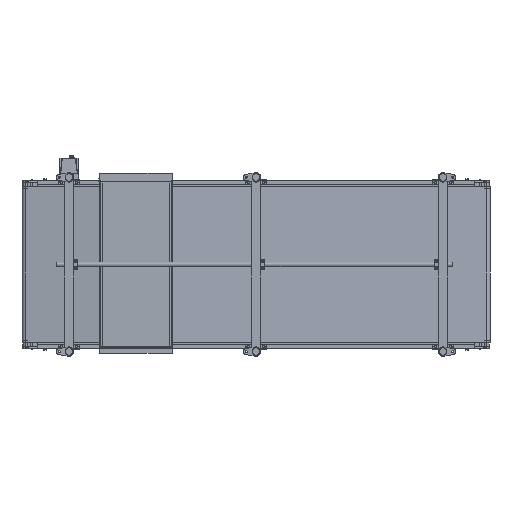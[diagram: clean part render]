
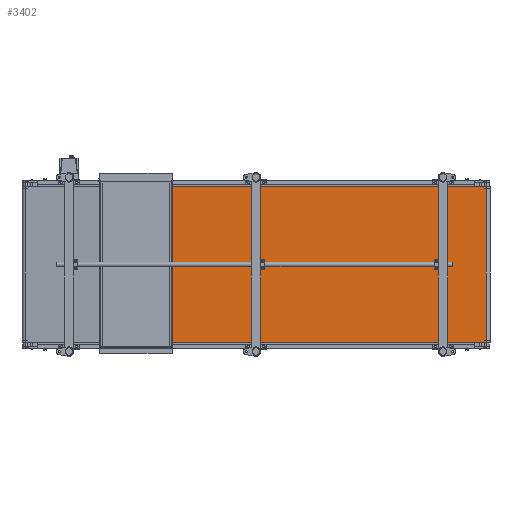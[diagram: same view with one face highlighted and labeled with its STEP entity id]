
A CAD part, front view. The second image highlights one B-rep face of the part: STEP entity #3402.
In plain terms, the highlighted planar face has unit normal (0.031, -1, 0).
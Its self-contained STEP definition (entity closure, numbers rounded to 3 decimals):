
#3402=ADVANCED_FACE('',(#17974),#17973,.F.);
#17973=PLANE('',#26604);
#17974=FACE_OUTER_BOUND('',#26605,.T.);
#26601=CARTESIAN_POINT('',(767.005,-116.008,510.));
#26602=DIRECTION('',(-0.031,1.,0.));
#26603=DIRECTION('',(1.,0.031,0.));
#26604=AXIS2_PLACEMENT_3D('',#26601,#26602,#26603);
#26605=EDGE_LOOP('',(#33578,#33579,#33580,#33581));
#33578=ORIENTED_EDGE('',*,*,#37118,.T.);
#33579=ORIENTED_EDGE('',*,*,#37119,.F.);
#33580=ORIENTED_EDGE('',*,*,#37120,.F.);
#33581=ORIENTED_EDGE('',*,*,#37116,.T.);
#37116=EDGE_CURVE('',#60192,#60185,#60193,.T.);
#37118=EDGE_CURVE('',#60185,#60205,#60206,.T.);
#37119=EDGE_CURVE('',#60212,#60205,#60213,.T.);
#37120=EDGE_CURVE('',#60192,#60212,#60219,.T.);
#60185=VERTEX_POINT('',#74798);
#60192=VERTEX_POINT('',#74803);
#60193=LINE('',#74804,#74805);
#60205=VERTEX_POINT('',#74811);
#60206=LINE('',#74812,#74813);
#60212=VERTEX_POINT('',#74815);
#60213=LINE('',#74816,#74817);
#60219=LINE('',#74819,#74820);
#74798=CARTESIAN_POINT('',(2976.485,-47.988,500.));
#74803=CARTESIAN_POINT('',(2976.485,-47.988,-500.));
#74804=CARTESIAN_POINT('',(2976.485,-47.988,-500.));
#74805=VECTOR('',#74806,1000.);
#74806=DIRECTION('',(0.,0.,1.));
#74811=CARTESIAN_POINT('',(777.,-115.7,500.));
#74812=CARTESIAN_POINT('',(2976.485,-47.988,500.));
#74813=VECTOR('',#74814,2200.527);
#74814=DIRECTION('',(-1.,-0.031,0.));
#74815=CARTESIAN_POINT('',(777.,-115.7,-500.));
#74816=CARTESIAN_POINT('',(777.,-115.7,-500.));
#74817=VECTOR('',#74818,1000.);
#74818=DIRECTION('',(0.,0.,1.));
#74819=CARTESIAN_POINT('',(2976.485,-47.988,-500.));
#74820=VECTOR('',#74821,2200.527);
#74821=DIRECTION('',(-1.,-0.031,0.));
